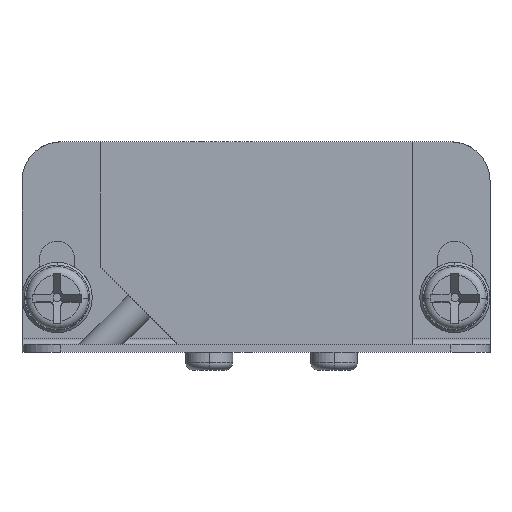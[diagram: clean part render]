
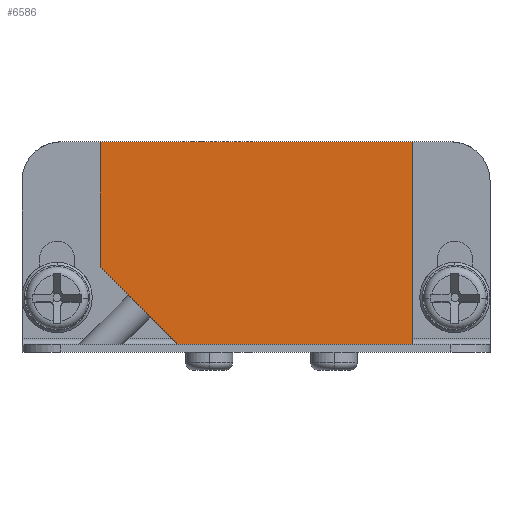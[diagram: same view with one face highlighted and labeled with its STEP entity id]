
A CAD part, top view. The second image highlights one B-rep face of the part: STEP entity #6586.
In plain terms, the highlighted planar face has unit normal (0, 0, 1).
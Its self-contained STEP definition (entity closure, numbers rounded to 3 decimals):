
#2097=DIRECTION('',(-1.,0.,0.));
#2098=VECTOR('',#2097,40.);
#2099=CARTESIAN_POINT('',(20.,26.,12.048));
#2100=LINE('',#2099,#2098);
#2104=DIRECTION('',(0.,1.,0.));
#2105=VECTOR('',#2104,26.);
#2106=CARTESIAN_POINT('',(20.,0.,12.048));
#2107=LINE('',#2106,#2105);
#2111=DIRECTION('',(1.,0.,0.));
#2112=VECTOR('',#2111,30.);
#2113=CARTESIAN_POINT('',(-10.,0.,12.048));
#2114=LINE('',#2113,#2112);
#2118=DIRECTION('',(0.707,-0.707,0.));
#2119=VECTOR('',#2118,14.142);
#2120=CARTESIAN_POINT('',(-20.,10.,12.048));
#2121=LINE('',#2120,#2119);
#2125=DIRECTION('',(0.,-1.,0.));
#2126=VECTOR('',#2125,16.);
#2127=CARTESIAN_POINT('',(-20.,26.,12.048));
#2128=LINE('',#2127,#2126);
#4302=CARTESIAN_POINT('',(20.,26.,12.048));
#4303=CARTESIAN_POINT('',(-20.,26.,12.048));
#4304=VERTEX_POINT('',#4302);
#4305=VERTEX_POINT('',#4303);
#4306=CARTESIAN_POINT('',(-20.,10.,12.048));
#4307=VERTEX_POINT('',#4306);
#4308=CARTESIAN_POINT('',(-10.,0.,12.048));
#4309=CARTESIAN_POINT('',(20.,0.,12.048));
#4310=VERTEX_POINT('',#4308);
#4311=VERTEX_POINT('',#4309);
#6574=CARTESIAN_POINT('',(0.,13.,12.048));
#6575=DIRECTION('',(0.,0.,1.));
#6576=DIRECTION('',(-1.,0.,0.));
#6577=AXIS2_PLACEMENT_3D('',#6574,#6575,#6576);
#6578=PLANE('',#6577);
#6579=ORIENTED_EDGE('',*,*,#6568,.F.);
#6580=ORIENTED_EDGE('',*,*,#6349,.F.);
#6581=ORIENTED_EDGE('',*,*,#6518,.F.);
#6582=ORIENTED_EDGE('',*,*,#6533,.F.);
#6583=ORIENTED_EDGE('',*,*,#6555,.F.);
#6584=EDGE_LOOP('',(#6579,#6580,#6581,#6582,#6583));
#6585=FACE_OUTER_BOUND('',#6584,.F.);
#6586=ADVANCED_FACE('',(#6585),#6578,.T.);
#6349=EDGE_CURVE('',#4311,#4304,#2107,.T.);
#6518=EDGE_CURVE('',#4310,#4311,#2114,.T.);
#6533=EDGE_CURVE('',#4307,#4310,#2121,.T.);
#6555=EDGE_CURVE('',#4305,#4307,#2128,.T.);
#6568=EDGE_CURVE('',#4304,#4305,#2100,.T.);
